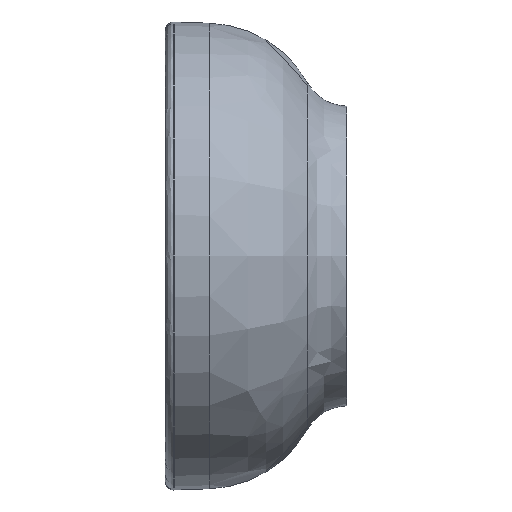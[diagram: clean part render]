
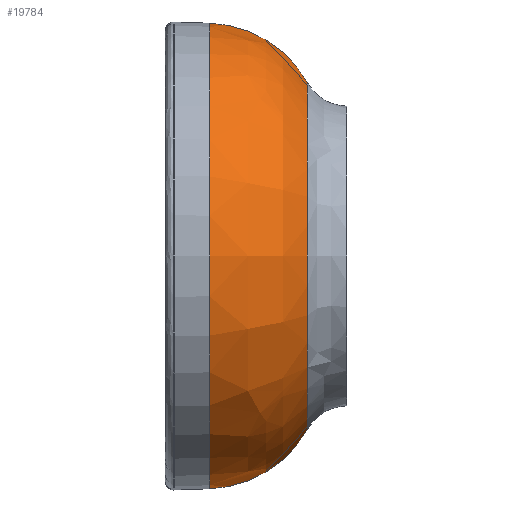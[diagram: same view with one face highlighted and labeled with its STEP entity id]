
A CAD part, left-side view. The second image highlights one B-rep face of the part: STEP entity #19784.
In plain terms, the highlighted free-form (B-spline) face has degree [3, 3] with [4, 4] control points.
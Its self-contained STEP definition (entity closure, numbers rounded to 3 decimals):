
#235 = CARTESIAN_POINT ( 'NONE',  ( -125., -34.334, 98.74 ) ) ;
#710 = ORIENTED_EDGE ( 'NONE', *, *, #19114, .T. ) ;
#1106 = CARTESIAN_POINT ( 'NONE',  ( -519.877, -73.351, -197.439 ) ) ;
#1190 = CARTESIAN_POINT ( 'NONE',  ( -125., -121.302, -148.102 ) ) ;
#1505 = AXIS2_PLACEMENT_3D ( 'NONE', #11447, #17068, #15200 ) ;
#2353 = CIRCLE ( 'NONE', #1505, 198.679 ) ;
#2557 = DIRECTION ( 'NONE',  ( 0., 1., 0. ) ) ;
#2875 = CARTESIAN_POINT ( 'NONE',  ( -483.036, -103.755, 179.018 ) ) ;
#4298 = DIRECTION ( 'NONE',  ( 0., 0., 1. ) ) ;
#4749 = CARTESIAN_POINT ( 'NONE',  ( -519.877, -73.351, 197.439 ) ) ;
#5003 = CARTESIAN_POINT ( 'NONE',  ( -522.358, -37.824, 198.679 ) ) ;
#5280 =( BOUNDED_SURFACE ( )  B_SPLINE_SURFACE ( 3, 3, ( 
 ( #10768, #12617, #10848, #1190 ),
 ( #6954, #2875, #20520, #16461 ),
 ( #24081, #4749, #1106, #6873 ),
 ( #20184, #5003, #14663, #14745 ) ),
 .UNSPECIFIED., .F., .F., .F. ) 
 B_SPLINE_SURFACE_WITH_KNOTS ( ( 4, 4 ),
 ( 4, 4 ),
 ( 0., 1. ),
 ( 0., 1. ),
 .UNSPECIFIED. ) 
 GEOMETRIC_REPRESENTATION_ITEM ( )  RATIONAL_B_SPLINE_SURFACE ( (
 ( 1., 0.333, 0.333, 1.),
 ( 0.915, 0.305, 0.305, 0.915),
 ( 0.915, 0.305, 0.305, 0.915),
 ( 1., 0.333, 0.333, 1.) ) ) 
 REPRESENTATION_ITEM ( '' )  SURFACE ( )  );
#5520 = CARTESIAN_POINT ( 'NONE',  ( -125., -37.824, -198.679 ) ) ;
#5817 = CIRCLE ( 'NONE', #24483, 148.102 ) ;
#5868 = ORIENTED_EDGE ( 'NONE', *, *, #17152, .T. ) ;
#6114 = CARTESIAN_POINT ( 'NONE',  ( -125., -121.302, 148.102 ) ) ;
#6130 = EDGE_CURVE ( 'NONE', #11178, #18581, #2353, .T. ) ;
#6232 = DIRECTION ( 'NONE',  ( 0., 0., -1. ) ) ;
#6627 = AXIS2_PLACEMENT_3D ( 'NONE', #18563, #6940, #8715 ) ;
#6873 = CARTESIAN_POINT ( 'NONE',  ( -125., -73.351, -197.439 ) ) ;
#6940 = DIRECTION ( 'NONE',  ( -1., 0., 0. ) ) ;
#6954 = CARTESIAN_POINT ( 'NONE',  ( -125., -103.755, 179.018 ) ) ;
#7295 = AXIS2_PLACEMENT_3D ( 'NONE', #235, #13697, #4298 ) ;
#7600 = CIRCLE ( 'NONE', #6627, 100. ) ;
#8715 = DIRECTION ( 'NONE',  ( 0., 0., -1. ) ) ;
#9239 = CARTESIAN_POINT ( 'NONE',  ( -125., -37.824, 198.679 ) ) ;
#10768 = CARTESIAN_POINT ( 'NONE',  ( -125., -121.302, 148.102 ) ) ;
#10848 = CARTESIAN_POINT ( 'NONE',  ( -421.205, -121.302, -148.102 ) ) ;
#11178 = VERTEX_POINT ( 'NONE', #5520 ) ;
#11447 = CARTESIAN_POINT ( 'NONE',  ( -125., -37.824, 0. ) ) ;
#11518 = VERTEX_POINT ( 'NONE', #23878 ) ;
#11737 = ORIENTED_EDGE ( 'NONE', *, *, #23059, .F. ) ;
#12617 = CARTESIAN_POINT ( 'NONE',  ( -421.205, -121.302, 148.102 ) ) ;
#13697 = DIRECTION ( 'NONE',  ( 1., 0., 0. ) ) ;
#14663 = CARTESIAN_POINT ( 'NONE',  ( -522.358, -37.824, -198.679 ) ) ;
#14745 = CARTESIAN_POINT ( 'NONE',  ( -125., -37.824, -198.679 ) ) ;
#14930 = ORIENTED_EDGE ( 'NONE', *, *, #6130, .F. ) ;
#15200 = DIRECTION ( 'NONE',  ( 0., 0., 1. ) ) ;
#16461 = CARTESIAN_POINT ( 'NONE',  ( -125., -103.755, -179.018 ) ) ;
#16774 = FACE_OUTER_BOUND ( 'NONE', #19737, .T. ) ;
#17068 = DIRECTION ( 'NONE',  ( 0., 1., 0. ) ) ;
#17152 = EDGE_CURVE ( 'NONE', #11178, #11518, #7600, .T. ) ;
#18563 = CARTESIAN_POINT ( 'NONE',  ( -125., -34.334, -98.74 ) ) ;
#18581 = VERTEX_POINT ( 'NONE', #9239 ) ;
#18733 = VERTEX_POINT ( 'NONE', #6114 ) ;
#19114 = EDGE_CURVE ( 'NONE', #11518, #18733, #5817, .T. ) ;
#19737 = EDGE_LOOP ( 'NONE', ( #11737, #14930, #5868, #710 ) ) ;
#19784 = ADVANCED_FACE ( 'NONE', ( #16774 ), #5280, .T. ) ;
#20184 = CARTESIAN_POINT ( 'NONE',  ( -125., -37.824, 198.679 ) ) ;
#20520 = CARTESIAN_POINT ( 'NONE',  ( -483.036, -103.755, -179.018 ) ) ;
#21017 = CIRCLE ( 'NONE', #7295, 100. ) ;
#23059 = EDGE_CURVE ( 'NONE', #18581, #18733, #21017, .T. ) ;
#23692 = CARTESIAN_POINT ( 'NONE',  ( -125., -121.302, 0. ) ) ;
#23878 = CARTESIAN_POINT ( 'NONE',  ( -125., -121.302, -148.102 ) ) ;
#24081 = CARTESIAN_POINT ( 'NONE',  ( -125., -73.351, 197.439 ) ) ;
#24483 = AXIS2_PLACEMENT_3D ( 'NONE', #23692, #2557, #6232 ) ;
